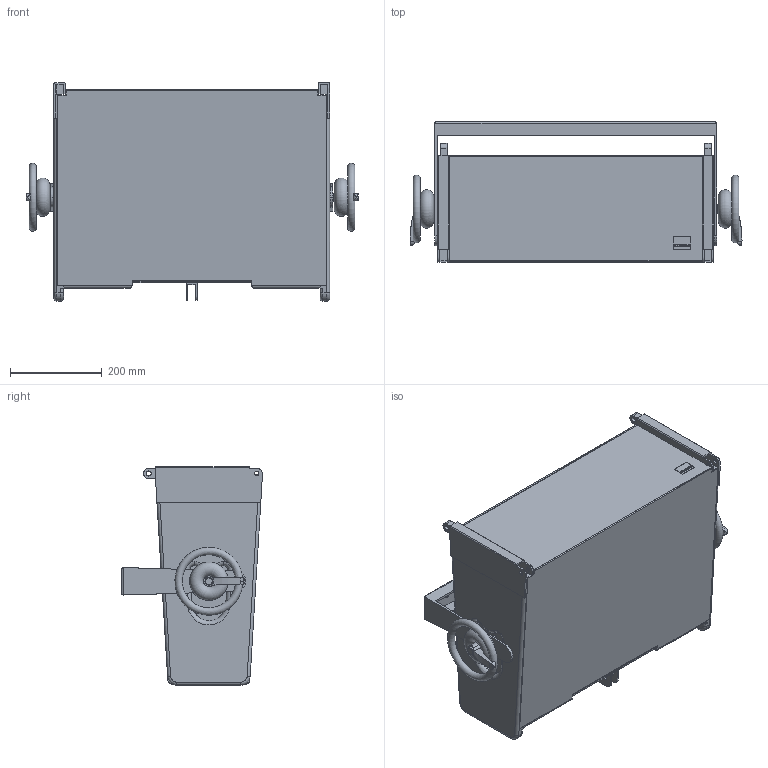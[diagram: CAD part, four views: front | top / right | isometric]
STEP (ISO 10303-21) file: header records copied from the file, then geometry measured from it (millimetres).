
FILE_DESCRIPTION (( 'STEP AP203' ), '1' );
FILE_NAME ('Seeburg_Galeo_Bracket-hor.STEP', '2012-10-17T09:32:57', ( 'Fabian' ), ( '' ), 'SwSTEP 2.0', 'SolidWorks 2009', '' );
FILE_SCHEMA (( 'CONFIG_CONTROL_DESIGN' ));
Length unit declared in the file: millimetre
Products named in the file (2): Seeburg_Galeo_Bracket-hor; GALEO_Bracket-hor
Assembly tree (1 placements, depth 2):
  Seeburg_Galeo_Bracket-hor
    GALEO_Bracket-hor
Bounding box: 722.33 x 306.65 x 475 mm (x, y, z)
Volume: 11572578.5 mm3; surface area: 2786943.8 mm2
Topology: 27 solids, 27 shells, 711 faces, 1884 edges, 1227 vertices
Faces by surface type: plane 310, cylinder 290, torus 60, cone 47, bspline 4
Entity records: 24774 total; most frequent: CARTESIAN_POINT 6661, DIRECTION 3776, ORIENTED_EDGE 3744, EDGE_CURVE 1872, AXIS2_PLACEMENT_3D 1370, VERTEX_POINT 1221, VECTOR 1036, LINE 1036
